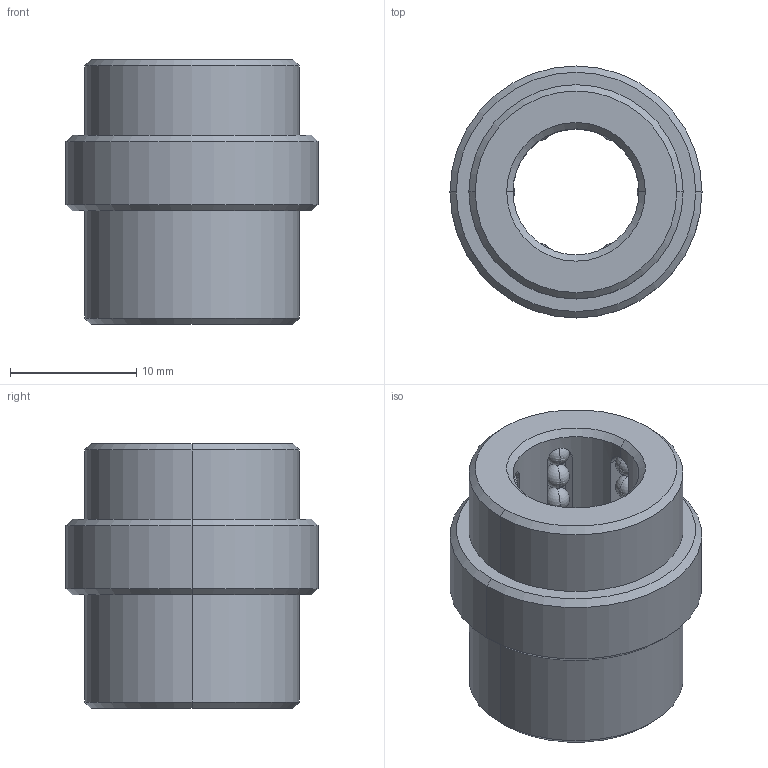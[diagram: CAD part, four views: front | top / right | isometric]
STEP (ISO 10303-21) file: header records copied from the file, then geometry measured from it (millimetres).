
FILE_DESCRIPTION((''),'2;1');
FILE_NAME('B844100912','2018-01-24T',('MANU'),(''),'PRO/ENGINEER BY PARAMETRIC TECHNOLOGY CORPORATION, 2012130','PRO/ENGINEER BY PARAMETRIC TECHNOLOGY CORPORATION, 2012130','');
FILE_SCHEMA(('CONFIG_CONTROL_DESIGN'));
Length unit declared in the file: millimetre
Products named in the file (1): B844100912
Bounding box: 20 x 20 x 21 mm (x, y, z)
Volume: 3413.4 mm3; surface area: 3264.1 mm2
Topology: 49 solids, 49 shells, 150 faces, 414 edges, 176 vertices
Faces by surface type: sphere 96, plane 22, cylinder 20, cone 12
Entity records: 3522 total; most frequent: CARTESIAN_POINT 702, DIRECTION 642, ORIENTED_EDGE 444, AXIS2_PLACEMENT_3D 286, EDGE_CURVE 222, VERTEX_POINT 176, EDGE_LOOP 158, FACE_OUTER_BOUND 150
